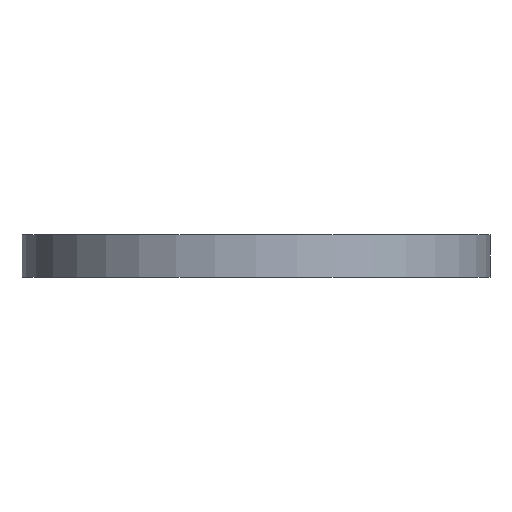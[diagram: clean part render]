
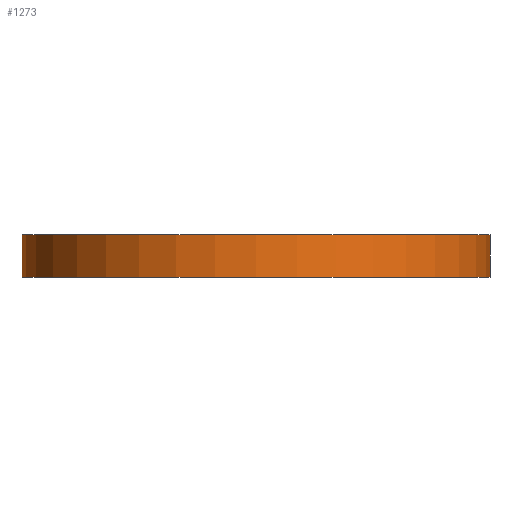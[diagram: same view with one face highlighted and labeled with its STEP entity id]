
A CAD part, front view. The second image highlights one B-rep face of the part: STEP entity #1273.
In plain terms, the highlighted cylindrical face has radius 330 mm (diameter 660 mm), a partial arc.
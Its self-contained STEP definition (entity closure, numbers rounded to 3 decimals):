
#39 = LINE ( 'NONE', #602, #724 ) ;
#189 = AXIS2_PLACEMENT_3D ( 'NONE', #1372, #505, #985 ) ;
#217 = CIRCLE ( 'NONE', #189, 330. ) ;
#262 = LINE ( 'NONE', #772, #377 ) ;
#307 = CARTESIAN_POINT ( 'NONE',  ( 0., 0., -60. ) ) ;
#334 = ORIENTED_EDGE ( 'NONE', *, *, #1202, .F. ) ;
#344 = ORIENTED_EDGE ( 'NONE', *, *, #395, .F. ) ;
#345 = ORIENTED_EDGE ( 'NONE', *, *, #1368, .T. ) ;
#346 = ORIENTED_EDGE ( 'NONE', *, *, #1159, .F. ) ;
#356 = VERTEX_POINT ( 'NONE', #1152 ) ;
#377 = VECTOR ( 'NONE', #1203, 1000. ) ;
#395 = EDGE_CURVE ( 'NONE', #356, #829, #1045, .T. ) ;
#505 = DIRECTION ( 'NONE',  ( 0., 0., 1. ) ) ;
#560 = CARTESIAN_POINT ( 'NONE',  ( 0., 0., -145. ) ) ;
#602 = CARTESIAN_POINT ( 'NONE',  ( 330., 0., -145. ) ) ;
#692 = CARTESIAN_POINT ( 'NONE',  ( -330., 0., -60. ) ) ;
#724 = VECTOR ( 'NONE', #1086, 1000. ) ;
#727 = CARTESIAN_POINT ( 'NONE',  ( 330., 0., 0. ) ) ;
#772 = CARTESIAN_POINT ( 'NONE',  ( -330., 0., -145. ) ) ;
#829 = VERTEX_POINT ( 'NONE', #692 ) ;
#833 = DIRECTION ( 'NONE',  ( 0., 0., -1. ) ) ;
#938 = AXIS2_PLACEMENT_3D ( 'NONE', #307, #833, #1220 ) ;
#985 = DIRECTION ( 'NONE',  ( 1., 0., 0. ) ) ;
#1038 = VERTEX_POINT ( 'NONE', #727 ) ;
#1044 = EDGE_LOOP ( 'NONE', ( #334, #344, #345, #346 ) ) ;
#1045 = CIRCLE ( 'NONE', #938, 330. ) ;
#1047 = VERTEX_POINT ( 'NONE', #1182 ) ;
#1048 = DIRECTION ( 'NONE',  ( 0., 0., 1. ) ) ;
#1086 = DIRECTION ( 'NONE',  ( 0., 0., 1. ) ) ;
#1152 = CARTESIAN_POINT ( 'NONE',  ( 330., 0., -60. ) ) ;
#1156 = FACE_OUTER_BOUND ( 'NONE', #1044, .T. ) ;
#1159 = EDGE_CURVE ( 'NONE', #1047, #1038, #217, .T. ) ;
#1182 = CARTESIAN_POINT ( 'NONE',  ( -330., 0., 0. ) ) ;
#1202 = EDGE_CURVE ( 'NONE', #829, #1047, #262, .T. ) ;
#1203 = DIRECTION ( 'NONE',  ( 0., 0., 1. ) ) ;
#1220 = DIRECTION ( 'NONE',  ( -1., 0., 0. ) ) ;
#1254 = AXIS2_PLACEMENT_3D ( 'NONE', #560, #1048, #1348 ) ;
#1273 = ADVANCED_FACE ( 'NONE', ( #1156 ), #1394, .T. ) ;
#1348 = DIRECTION ( 'NONE',  ( 1., 0., 0. ) ) ;
#1368 = EDGE_CURVE ( 'NONE', #356, #1038, #39, .T. ) ;
#1372 = CARTESIAN_POINT ( 'NONE',  ( 0., 0., 0. ) ) ;
#1394 = CYLINDRICAL_SURFACE ( 'NONE', #1254, 330. ) ;
